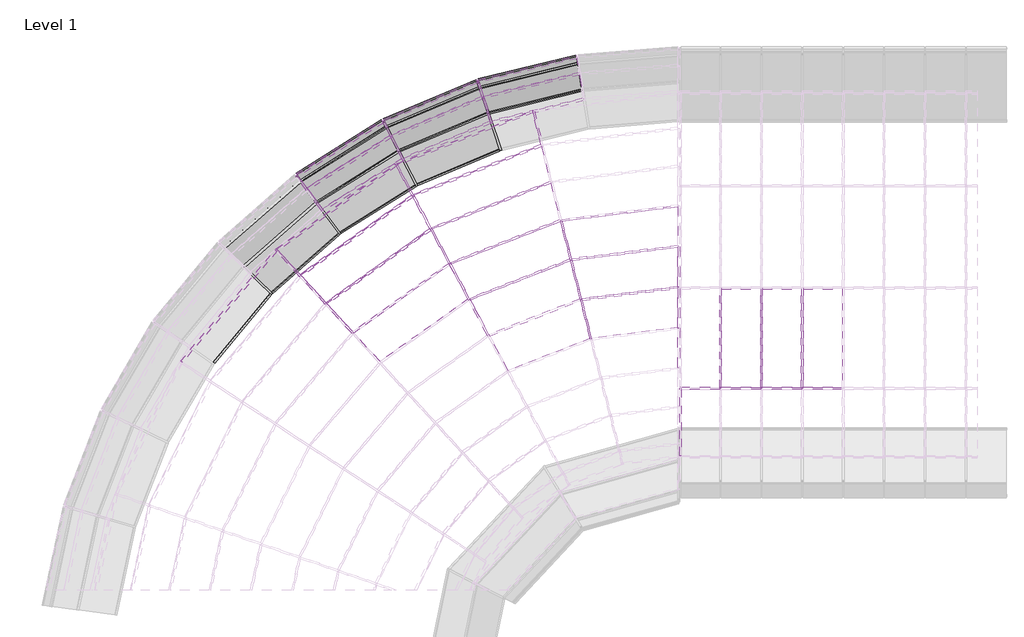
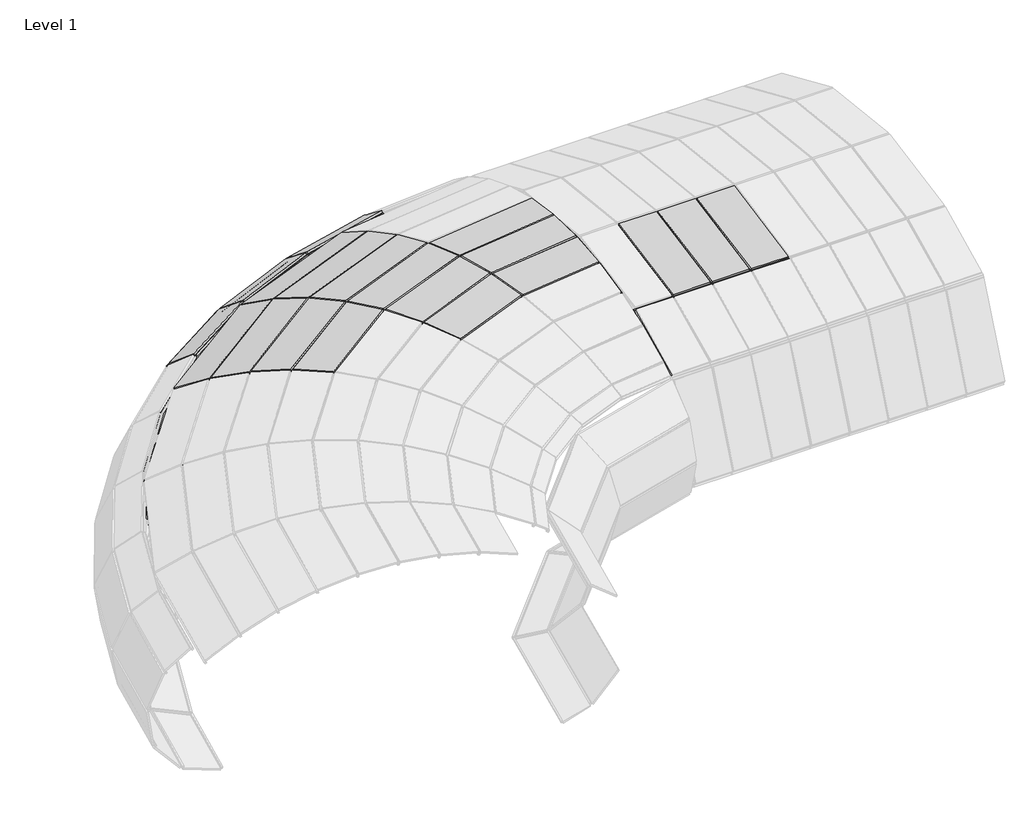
# One storey, part 16 of 23: 70 members, 32 plates.
"""IFC4 building model written with IfcOpenShell, lengths in millimetres."""

from ifc_helpers import new_model, si_unit, origin, place, context, project, spatial, transform, mapped, element, save
from components import member_d6b8231b, member_8c9da58c, member_391bee44, member_01ebdf2a, member_0cd36c09, member_e4cc2466, member_7149052c, member_6c4aaba8, member_0ea93e7c, member_bc92414a, member_01d9c279, member_f1f58849, member_12c77cbe, member_302b4213, member_fc38b671, member_bfbbd4af, member_af15374c, member_9c203333, member_86c07ba8, member_0e8a41c0, member_f532ae18, member_ff5bcfe9, member_5080b2ef, member_3e1f1dd8, member_309acb9e, member_a1b02127, system_panel_glazed_a6d149b5, system_panel_glazed_185472ef, system_panel_glazed_d90a1b68, system_panel_glazed_31312e4f, system_panel_glazed_7d733e69, system_panel_glazed_42fef723, system_panel_glazed_1f33159c, system_panel_glazed_529724de, system_panel_glazed_b4bd1deb, system_panel_glazed_020edd5b, system_panel_glazed_973a940c, system_panel_glazed_7e9fb579, system_panel_glazed_aab04364, system_panel_glazed_9094d4f4, system_panel_glazed_e96a6bf3

model = new_model("IFC4")

# Units and contexts
model_context = context("Model", 3, world=origin())
ifc_project = project(units=[si_unit("LENGTHUNIT", "METRE", prefix="MILLI")], contexts=[model_context])

# Site, building, storey
site = spatial("IfcSite", under=ifc_project)
building = spatial("IfcBuilding", under=site)
storey = spatial("IfcBuildingStorey", under=building, Name="Level 1", Elevation=0.0)

# Members
placement = place(None, origin())
member_shape = member_d6b8231b(model_context)
element("IfcMember", 1, ObjectType="Rectangular Mullion : 1\" Square", at=placement, inside=storey, context=model_context, shape_type="MappedRepresentation", body=[
    mapped(member_shape, transform((-12576.8857253, 6681.4197391, 0.0), x_axis=(-0.9491072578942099, -0.3149530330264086, 0.0), y_axis=(-0.08828060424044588, 0.26603256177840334, -0.959913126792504), z_axis=(0.3023275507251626, -0.9110605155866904, -0.2802976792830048))),
])
element("IfcMember", 2, ObjectType="Rectangular Mullion : 1\" Square", at=placement, inside=storey, context=model_context, shape_type="MappedRepresentation", body=[
    mapped(member_shape, transform((-13823.3519715, 6153.674298, 0.0), x_axis=(-0.8867127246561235, -0.46232082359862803, 0.0), y_axis=(-0.129587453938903, 0.2485435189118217, -0.959913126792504), z_axis=(0.4437878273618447, -0.85116718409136, -0.2802976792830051))),
])
element("IfcMember", 3, ObjectType="Rectangular Mullion : 1\" Square", at=placement, inside=storey, context=model_context, shape_type="MappedRepresentation", body=[
    mapped(member_shape, transform((-15986.4866134, 4540.3860924, 0.0), x_axis=(-0.6959761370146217, -0.7180649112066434, 0.0), y_axis=(-0.20127192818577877, 0.19508049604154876, -0.9599131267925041), z_axis=(0.6892799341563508, -0.6680766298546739, -0.2802976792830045))),
])
element("IfcMember", 4, ObjectType="Rectangular Mullion : 1\" Square", at=placement, inside=storey, context=model_context, shape_type="MappedRepresentation", body=[
    mapped(member_shape, transform((-14969.6714797, 5433.8514456, 0.0), x_axis=(-0.8016091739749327, -0.5978484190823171, 0.0), y_axis=(-0.16757552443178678, 0.2246891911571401, -0.9599131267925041), z_axis=(0.5738825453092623, -0.769475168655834, -0.28029767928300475))),
])
member_2_shape = member_8c9da58c(model_context)
element("IfcMember", 5, ObjectType="Rectangular Mullion : 1\" Square", at=placement, inside=storey, context=model_context, shape_type="MappedRepresentation", body=[
    mapped(member_2_shape, transform((-12761.1846002, 7236.8022294, 170.8694653), x_axis=(-0.9491072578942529, -0.31495303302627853, 0.0), y_axis=(-0.23709811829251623, 0.7144923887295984, -0.658243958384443), z_axis=(0.20731593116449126, -0.6247441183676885, -0.7528046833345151))),
])
element("IfcMember", 6, ObjectType="Rectangular Mullion : 1\" Square", at=placement, inside=storey, context=model_context, shape_type="MappedRepresentation", body=[
    mapped(member_2_shape, transform((-12887.5643919, 7617.6462439, 629.7792003), x_axis=(-0.9491072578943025, -0.3149530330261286, 0.0), y_axis=(-0.3114034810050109, 0.9384107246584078, -0.14971033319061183), z_axis=(0.047151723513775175, -0.14209116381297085, -0.9887299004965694))),
])
element("IfcMember", 7, ObjectType="Rectangular Mullion : 1\" Square", at=placement, inside=storey, context=model_context, shape_type="MappedRepresentation", body=[
    mapped(member_2_shape, transform((-14093.8850311, 6672.5458134, 170.8694653), x_axis=(-0.8867127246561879, -0.4623208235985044, 0.0), y_axis=(-0.3480372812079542, 0.6675214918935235, -0.6582439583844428), z_axis=(0.30431988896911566, -0.5836732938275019, -0.7528046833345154))),
])
element("IfcMember", 8, ObjectType="Rectangular Mullion : 1\" Square", at=placement, inside=storey, context=model_context, shape_type="MappedRepresentation", body=[
    mapped(member_2_shape, transform((-14279.3984354, 7028.3530534, 629.7792003), x_axis=(-0.8867127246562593, -0.4623208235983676, 0.0), y_axis=(-0.45711042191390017, 0.8767193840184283, -0.14971033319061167), z_axis=(0.06921420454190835, -0.1327500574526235, -0.9887299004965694))),
])
element("IfcMember", 9, ObjectType="Rectangular Mullion : 1\" Square", at=placement, inside=storey, context=model_context, shape_type="MappedRepresentation", body=[
    mapped(member_2_shape, transform((-15319.5102793, 5902.9235085, 170.8694653), x_axis=(-0.8016091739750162, -0.5978484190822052, 0.0), y_axis=(-0.450063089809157, 0.6034551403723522, -0.6582439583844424), z_axis=(0.3935301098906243, -0.5276543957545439, -0.7528046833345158))),
])
element("IfcMember", 10, ObjectType="Rectangular Mullion : 1\" Square", at=placement, inside=storey, context=model_context, shape_type="MappedRepresentation", body=[
    mapped(member_2_shape, transform((-15559.4062343, 6224.5816281, 629.7792003), x_axis=(-0.8016091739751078, -0.5978484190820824, 0.0), y_axis=(-0.5911106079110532, 0.7925749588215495, -0.149710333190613), z_axis=(0.08950408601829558, -0.12000917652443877, -0.9887299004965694))),
])
member_3_shape = member_391bee44(model_context)
element("IfcMember", 11, ObjectType="Rectangular Mullion : 1\" Square", at=placement, inside=storey, context=model_context, shape_type="MappedRepresentation", body=[
    mapped(member_3_shape, transform((-12916.3080825, 7704.2650174, 1232.5089476), x_axis=(-0.9491072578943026, -0.314953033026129, 0.0), y_axis=(-0.2878449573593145, 0.867417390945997, 0.40587233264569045), z_axis=(-0.1278307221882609, 0.38521637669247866, -0.9139297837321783))),
])
element("IfcMember", 12, ObjectType="Rectangular Mullion : 1\" Square", at=placement, inside=storey, context=model_context, shape_type="MappedRepresentation", body=[
    mapped(member_3_shape, transform((-14321.5914145, 7109.2774884, 1232.5089476), x_axis=(-0.8867127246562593, -0.46232082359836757, 0.0), y_axis=(-0.42252877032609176, 0.8103931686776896, 0.4058723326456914), z_axis=(-0.18764323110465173, 0.35989216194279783, -0.9139297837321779))),
])
element("IfcMember", 13, ObjectType="Rectangular Mullion : 1\" Square", at=placement, inside=storey, context=model_context, shape_type="MappedRepresentation", body=[
    mapped(member_3_shape, transform((-15613.9679251, 6297.7392221, 1232.5089476), x_axis=(-0.8016091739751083, -0.5978484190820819, 0.0), y_axis=(-0.5463914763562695, 0.7326144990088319, 0.4058723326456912), z_axis=(-0.24265013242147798, 0.32535098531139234, -0.9139297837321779))),
])
member_4_shape = member_01ebdf2a(model_context)
element("IfcMember", 14, ObjectType="Rectangular Mullion : 1\" Square", at=placement, inside=storey, context=model_context, shape_type="MappedRepresentation", body=[
    mapped(member_4_shape, transform((-12838.3824743, 7469.4371141, 1789.6405438), x_axis=(-0.9491072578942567, -0.3149530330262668, 0.0), y_axis=(-0.18766792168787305, 0.565535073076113, 0.8030883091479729), z_axis=(-0.25293509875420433, 0.7622169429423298, -0.5958600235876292))),
])
element("IfcMember", 15, ObjectType="Rectangular Mullion : 1\" Square", at=placement, inside=storey, context=model_context, shape_type="MappedRepresentation", body=[
    mapped(member_4_shape, transform((-14207.2041008, 6889.8872265, 1789.6405438), x_axis=(-0.8867127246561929, -0.46232082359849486, 0.0), y_axis=(-0.27547849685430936, 0.5283566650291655, 0.8030883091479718), z_axis=(-0.3712844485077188, 0.7121086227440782, -0.5958600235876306))),
])
element("IfcMember", 16, ObjectType="Rectangular Mullion : 1\" Square", at=placement, inside=storey, context=model_context, shape_type="MappedRepresentation", body=[
    mapped(member_4_shape, transform((-15466.0484044, 6099.4052615, 1789.6405438), x_axis=(-0.8016091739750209, -0.5978484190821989, 0.0), y_axis=(-0.35623397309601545, 0.4776468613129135, 0.8030883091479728), z_axis=(-0.4801250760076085, 0.6437629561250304, -0.5958600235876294))),
])
member_5_shape = member_0cd36c09(model_context)
element("IfcMember", 17, ObjectType="Rectangular Mullion : 1\" Square", at=placement, inside=storey, context=model_context, shape_type="MappedRepresentation", body=[
    mapped(member_5_shape, transform((-11677.211635, 5634.5342332, 2763.3769688), x_axis=(-0.9695168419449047, -0.24502467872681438, 0.0), y_axis=(-0.03488908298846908, 0.13804957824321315, 0.9898106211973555), z_axis=(-0.24252802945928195, 0.9596380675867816, -0.14239007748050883))),
])
element("IfcMember", 18, ObjectType="Rectangular Mullion : 1\" Square", at=placement, inside=storey, context=model_context, shape_type="MappedRepresentation", body=[
    mapped(member_5_shape, transform((-11529.3665483, 5049.5388672, 2850.17796), x_axis=(-0.9695168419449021, -0.24502467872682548, 0.0), y_axis=(-0.005765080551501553, 0.02281134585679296, 0.9997231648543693), z_axis=(-0.24495684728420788, 0.9692484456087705, -0.023528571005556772))),
])
element("IfcMember", 19, ObjectType="Rectangular Mullion : 1\" Square", at=placement, inside=storey, context=model_context, shape_type="MappedRepresentation", body=[
    mapped(member_5_shape, transform((-13882.4385737, 6005.341088, 2378.3537392), x_axis=(-0.879925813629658, -0.4751111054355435, 0.0), y_axis=(-0.17691896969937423, 0.32766139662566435, 0.9280828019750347), z_axis=(-0.4409424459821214, 0.8166440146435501, -0.37237388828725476))),
])
element("IfcMember", 20, ObjectType="Rectangular Mullion : 1\" Square", at=placement, inside=storey, context=model_context, shape_type="MappedRepresentation", body=[
    mapped(member_5_shape, transform((-13613.6400587, 5507.5148967, 2605.3528615), x_axis=(-0.8799258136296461, -0.4751111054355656, 0.0), y_axis=(-0.12316110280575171, 0.22809955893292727, 0.9658167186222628), z_axis=(-0.4588702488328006, 0.8498470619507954, -0.25922589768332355))),
])
element("IfcMember", 21, ObjectType="Rectangular Mullion : 1\" Square", at=placement, inside=storey, context=model_context, shape_type="MappedRepresentation", body=[
    mapped(member_5_shape, transform((-13333.912755, 4989.4481277, 2763.3769688), x_axis=(-0.8799258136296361, -0.47511110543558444, 0.0), y_axis=(-0.0676511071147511, 0.12529270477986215, 0.9898106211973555), z_axis=(-0.4702700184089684, 0.870959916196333, -0.14239007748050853))),
])
element("IfcMember", 22, ObjectType="Rectangular Mullion : 1\" Square", at=placement, inside=storey, context=model_context, shape_type="MappedRepresentation", body=[
    mapped(member_5_shape, transform((-13047.2361517, 4458.5109628, 2850.17796), x_axis=(-0.8799258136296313, -0.4751111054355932, 0.0), y_axis=(-0.01117868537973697, 0.02070339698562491, 0.9997231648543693), z_axis=(-0.47497957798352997, 0.8796822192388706, -0.023528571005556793))),
])
element("IfcMember", 23, ObjectType="Rectangular Mullion : 1\" Square", at=placement, inside=storey, context=model_context, shape_type="MappedRepresentation", body=[
    mapped(member_5_shape, transform((-15562.7742428, 4808.6165963, 2378.3537392), x_axis=(-0.7366889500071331, -0.6762317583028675, 0.0), y_axis=(-0.25181104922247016, 0.27432372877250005, 0.9280828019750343), z_axis=(-0.627599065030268, 0.6837083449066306, -0.3723738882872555))),
])
element("IfcMember", 24, ObjectType="Rectangular Mullion : 1\" Square", at=placement, inside=storey, context=model_context, shape_type="MappedRepresentation", body=[
    mapped(member_5_shape, transform((-15180.1898528, 4391.8279892, 2605.3528615), x_axis=(-0.7366889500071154, -0.6762317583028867, 0.0), y_axis=(-0.17529678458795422, 0.19096885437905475, 0.9658167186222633), z_axis=(-0.6531159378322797, 0.7115065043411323, -0.2592258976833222))),
])
element("IfcMember", 25, ObjectType="Rectangular Mullion : 1\" Square", at=placement, inside=storey, context=model_context, shape_type="MappedRepresentation", body=[
    mapped(member_5_shape, transform((-11380.0408541, 4458.6850148, 2864.5209769), x_axis=(-0.9695168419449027, -0.24502467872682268, 0.0), y_axis=(0.023440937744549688, -0.09275140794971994, 0.9954133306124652), z_axis=(-0.24390083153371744, 0.9650699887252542, 0.09566766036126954))),
])
member_6_shape = member_e4cc2466(model_context)
element("IfcMember", 26, ObjectType="Rectangular Mullion : 1\" Square", at=placement, inside=storey, context=model_context, shape_type="MappedRepresentation", body=[
    mapped(member_6_shape, transform((-15924.3607807, 5202.5300788, 2085.6089632), x_axis=(-0.7366889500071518, -0.6762317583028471, 0.0), y_axis=(-0.3247429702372, 0.3537759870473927, 0.8771456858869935), z_axis=(-0.5931537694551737, 0.6461835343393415, -0.4802243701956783))),
])
element("IfcMember", 27, ObjectType="Rectangular Mullion : 1\" Square", at=placement, inside=storey, context=model_context, shape_type="MappedRepresentation", body=[
    mapped(member_6_shape, transform((-14136.4842875, 6475.8444688, 2085.6089632), x_axis=(-0.8799258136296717, -0.47511110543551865, 0.0), y_axis=(-0.22815993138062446, 0.4225618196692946, 0.8771456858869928), z_axis=(-0.4167416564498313, 0.771823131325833, -0.48022437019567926))),
])
element("IfcMember", 28, ObjectType="Rectangular Mullion : 1\" Square", at=placement, inside=storey, context=model_context, shape_type="MappedRepresentation", body=[
    mapped(member_6_shape, transform((-12091.1144667, 7272.2703517, 2085.6089632), x_axis=(-0.9695168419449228, -0.24502467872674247, 0.0), y_axis=(-0.11766682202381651, 0.46558561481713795, 0.877145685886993), z_axis=(-0.21492233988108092, 0.8504075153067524, -0.48022437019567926))),
])
member_7_shape = member_7149052c(model_context)
element("IfcMember", 29, ObjectType="Rectangular Mullion : 1\" Square", at=placement, inside=storey, context=model_context, shape_type="MappedRepresentation", body=[
    mapped(member_7_shape, transform((-9912.9499814, 4641.2036214, 2864.5209769), x_axis=(0.999995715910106, 6.887147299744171e-05, 0.0029263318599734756), y_axis=(-0.002927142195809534, 0.02352847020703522, 0.9997188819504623), z_axis=(0.0, -0.9997231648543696, 0.023528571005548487))),
])
member_8_shape = member_6c4aaba8(model_context)
element("IfcMember", 30, ObjectType="Rectangular Mullion : 1\" Square", at=placement, inside=storey, context=model_context, shape_type="MappedRepresentation", body=[
    mapped(member_8_shape, transform((-13870.6040784, 6009.9492025, 2378.3537392), x_axis=(0.328579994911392, -0.843854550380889, 0.424198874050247), y_axis=(-0.15391787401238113, 0.3952897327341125, 0.9055690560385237), z_axis=(-0.9318500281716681, -0.36284366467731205, 0.0))),
])
element("IfcMember", 31, ObjectType="Rectangular Mullion : 1\" Square", at=placement, inside=storey, context=model_context, shape_type="MappedRepresentation", body=[
    mapped(member_8_shape, transform((-15552.429602, 4815.9839844, 2378.3537392), x_axis=(0.5253290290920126, -0.7376209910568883, 0.424198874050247), y_axis=(-0.24608171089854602, 0.34552637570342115, 0.9055690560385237), z_axis=(-0.8145386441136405, -0.5801092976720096, 0.0))),
])
member_9_shape = member_0ea93e7c(model_context)
element("IfcMember", 32, ObjectType="Rectangular Mullion : 1\" Square", at=placement, inside=storey, context=model_context, shape_type="MappedRepresentation", body=[
    mapped(member_9_shape, transform((-13322.0782596, 4994.0562422, 2763.3769688), x_axis=(0.3555541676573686, -0.9131292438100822, 0.19943976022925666), y_axis=(-0.0723654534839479, 0.18584794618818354, 0.9799100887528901), z_axis=(-0.9318500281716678, -0.36284366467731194, 0.0))),
])
member_10_shape = member_bc92414a(model_context)
element("IfcMember", 33, ObjectType="Rectangular Mullion : 1\" Square", at=placement, inside=storey, context=model_context, shape_type="MappedRepresentation", body=[
    mapped(member_10_shape, transform((-11516.7637039, 5051.1067685, 2850.17796), x_axis=(0.12303904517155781, -0.9889921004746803, 0.08219500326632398), y_axis=(-0.010147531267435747, 0.08156620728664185, 0.9966162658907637), z_axis=(-0.9923499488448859, -0.12345679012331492, 0.0))),
])
member_11_shape = member_01d9c279(model_context)
element("IfcMember", 34, ObjectType="Rectangular Mullion : 1\" Square", at=placement, inside=storey, context=model_context, shape_type="MappedRepresentation", body=[
    mapped(member_11_shape, transform((-13035.4016564, 4463.1190773, 2850.17796), x_axis=(0.3616158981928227, -0.9286968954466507, 0.08219500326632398), y_axis=(-0.029823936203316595, 0.07659341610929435, 0.9966162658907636), z_axis=(-0.9318500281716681, -0.36284366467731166, 0.0))),
])
member_12_shape = member_f1f58849(model_context)
element("IfcMember", 35, ObjectType="Rectangular Mullion : 1\" Square", at=placement, inside=storey, context=model_context, shape_type="MappedRepresentation", body=[
    mapped(member_12_shape, transform((-11367.4380098, 4460.252916, 2864.5209769), x_axis=(0.12337601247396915, -0.991700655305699, -0.03616863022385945), y_axis=(0.004465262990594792, -0.03589193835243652, 0.9993457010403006), z_axis=(-0.992349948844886, -0.12345679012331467, 0.0))),
])
member_13_shape = member_12c77cbe(model_context)
element("IfcMember", 36, ObjectType="Rectangular Mullion : 1\" Square", at=placement, inside=storey, context=model_context, shape_type="MappedRepresentation", body=[
    mapped(member_13_shape, transform((-13601.8055633, 5512.1230112, 2605.3528615), x_axis=(0.34449616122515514, -0.8847302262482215, 0.31396627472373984), y_axis=(-0.11392067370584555, 0.2925694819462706, 0.9494341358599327), z_axis=(-0.9318500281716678, -0.3628436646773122, 0.0))),
])
element("IfcMember", 37, ObjectType="Rectangular Mullion : 1\" Square", at=placement, inside=storey, context=model_context, shape_type="MappedRepresentation", body=[
    mapped(member_13_shape, transform((-15169.845212, 4399.1953773, 2605.3528615), x_axis=(0.5507755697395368, -0.7733507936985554, 0.3139662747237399), y_axis=(-0.18213475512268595, 0.25573766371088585, 0.9494341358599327), z_axis=(-0.8145386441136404, -0.5801092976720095, 0.0))),
])
member_14_shape = member_302b4213(model_context)
element("IfcMember", 38, ObjectType="Rectangular Mullion : 1\" Square", at=placement, inside=storey, context=model_context, shape_type="MappedRepresentation", body=[
    mapped(member_14_shape, transform((-11664.6087907, 5636.1021345, 2763.3769688), x_axis=(0.12097655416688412, -0.9724137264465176, 0.19943976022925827), y_axis=(-0.024622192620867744, 0.19791403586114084, 0.9799100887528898), z_axis=(-0.992349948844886, -0.12345679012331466, 0.0))),
])
member_15_shape = member_fc38b671(model_context)
element("IfcMember", 39, ObjectType="Rectangular Mullion : 1\" Square", at=placement, inside=storey, context=model_context, shape_type="MappedRepresentation", body=[
    mapped(member_15_shape, transform((-9912.9499814, 4034.3996551, 2806.2019711), x_axis=(0.9999291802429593, 0.001138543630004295, -0.011846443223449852), y_axis=(0.011901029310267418, -0.09566088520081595, 0.9953428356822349), z_axis=(0.0, -0.9954133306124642, -0.09566766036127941))),
])
member_16_shape = member_bfbbd4af(model_context)
element("IfcMember", 40, ObjectType="Rectangular Mullion : 1\" Square", at=placement, inside=storey, context=model_context, shape_type="MappedRepresentation", body=[
    mapped(member_16_shape, transform((-9912.9499814, 3438.8555488, 2676.0506073), x_axis=(0.9996474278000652, 0.005668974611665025, -0.025939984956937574), y_axis=(0.02655221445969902, -0.21342761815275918, 0.9765979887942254), z_axis=(0.0, -0.9769424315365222, -0.2135028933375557))),
])
member_17_shape = member_af15374c(model_context)
element("IfcMember", 41, ObjectType="Rectangular Mullion : 1\" Square", at=placement, inside=storey, context=model_context, shape_type="MappedRepresentation", body=[
    mapped(member_17_shape, transform((-12102.9489621, 7267.6622372, 2085.6089632), x_axis=(-0.3177002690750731, 0.8159133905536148, -0.48306508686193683), y_axis=(-0.17527710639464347, 0.4501442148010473, 0.8755844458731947), z_axis=(0.9318500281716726, 0.3628436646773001, 0.0))),
])
element("IfcMember", 42, ObjectType="Rectangular Mullion : 1\" Square", at=placement, inside=storey, context=model_context, shape_type="MappedRepresentation", body=[
    mapped(member_17_shape, transform((-14146.8289283, 6468.4770808, 2085.6089632), x_axis=(-0.507934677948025, 0.7131973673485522, -0.48306508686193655), y_axis=(-0.280230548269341, 0.39347518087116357, 0.8755844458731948), z_axis=(0.8145386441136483, 0.5801092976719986, 0.0))),
])
element("IfcMember", 43, ObjectType="Rectangular Mullion : 1\" Square", at=placement, inside=storey, context=model_context, shape_type="MappedRepresentation", body=[
    mapped(member_17_shape, transform((-15932.5848922, 5192.8525797, 2085.6089632), x_axis=(-0.6672021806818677, 0.5670003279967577, -0.48306508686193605), y_axis=(-0.36809936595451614, 0.31281741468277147, 0.8755844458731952), z_axis=(0.6475678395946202, 0.7620078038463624, 0.0))),
])
member_18_shape = member_9c203333(model_context)
element("IfcMember", 44, ObjectType="Rectangular Mullion : 1\" Square", at=placement, inside=storey, context=model_context, shape_type="MappedRepresentation", body=[
    mapped(member_18_shape, transform((-12588.5806813, 6676.4681732, 0.0), x_axis=(0.3741630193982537, -0.8837244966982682, -0.2811281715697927), y_axis=(-0.10960824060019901, 0.2588804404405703, -0.959670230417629), z_axis=(0.9208626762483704, 0.3898870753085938, 0.0))),
])
element("IfcMember", 45, ObjectType="Rectangular Mullion : 1\" Square", at=placement, inside=storey, context=model_context, shape_type="MappedRepresentation", body=[
    mapped(member_18_shape, transform((-13834.1073019, 6146.9205679, 0.0), x_axis=(0.5103428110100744, -0.8127220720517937, -0.2811281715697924), y_axis=(-0.14950108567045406, 0.23808081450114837, -0.9596702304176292), z_axis=(0.8468764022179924, 0.5317897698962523, 0.0))),
])
element("IfcMember", 46, ObjectType="Rectangular Mullion : 1\" Square", at=placement, inside=storey, context=model_context, shape_type="MappedRepresentation", body=[
    mapped(member_18_shape, transform((-14979.2117366, 5425.4685167, 0.0), x_axis=(0.6334525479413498, -0.7209055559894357, -0.2811281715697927), y_axis=(-0.18556515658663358, 0.21118385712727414, -0.959670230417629), z_axis=(0.7512013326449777, 0.6600731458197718, 0.0))),
])
element("IfcMember", 47, ObjectType="Rectangular Mullion : 1\" Square", at=placement, inside=storey, context=model_context, shape_type="MappedRepresentation", body=[
    mapped(member_18_shape, transform((-15994.5674676, 4530.5886543, 0.0), x_axis=(0.7403393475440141, -0.6106264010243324, -0.2811281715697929), y_axis=(-0.21687684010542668, 0.17887840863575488, -0.9596702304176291), z_axis=(0.6362877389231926, 0.7714518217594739, 0.0))),
])
member_19_shape = member_86c07ba8(model_context)
element("IfcMember", 48, ObjectType="Rectangular Mullion : 1\" Square", at=placement, inside=storey, context=model_context, shape_type="MappedRepresentation", body=[
    mapped(member_19_shape, transform((-12748.8495304, 7239.8248197, 170.8694653), x_axis=(-0.20088097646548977, 0.8197872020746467, 0.5362795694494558), y_axis=(-0.12763412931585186, 0.520869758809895, -0.8440404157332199), z_axis=(-0.9712653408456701, -0.23799923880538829, 0.0))),
])
element("IfcMember", 49, ObjectType="Rectangular Mullion : 1\" Square", at=placement, inside=storey, context=model_context, shape_type="MappedRepresentation", body=[
    mapped(member_19_shape, transform((-14082.1900751, 6677.4973793, 170.8694653), x_axis=(-0.3290804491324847, 0.7772453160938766, 0.5362795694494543), y_axis=(-0.20908847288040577, 0.49383983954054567, -0.8440404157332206), z_axis=(-0.9208626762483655, -0.3898870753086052, 0.0))),
])
element("IfcMember", 50, ObjectType="Rectangular Mullion : 1\" Square", at=placement, inside=storey, context=model_context, shape_type="MappedRepresentation", body=[
    mapped(member_19_shape, transform((-15308.754949, 5909.6772385, 170.8694653), x_axis=(-0.44885205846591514, 0.7147979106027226, 0.536279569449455), y_axis=(-0.28518798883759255, 0.4541625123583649, -0.8440404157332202), z_axis=(-0.8468764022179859, -0.5317897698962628, 0.0))),
])
member_20_shape = member_0e8a41c0(model_context)
element("IfcMember", 51, ObjectType="Rectangular Mullion : 1\" Square", at=placement, inside=storey, context=model_context, shape_type="MappedRepresentation", body=[
    mapped(member_20_shape, transform((-12875.2293221, 7620.6688342, 629.7792003), x_axis=(-0.10050189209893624, 0.4101441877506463, 0.9064662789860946), y_axis=(-0.21573828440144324, 0.8804192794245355, -0.42227820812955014), z_axis=(-0.9712653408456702, -0.23799923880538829, 0.0))),
])
element("IfcMember", 52, ObjectType="Rectangular Mullion : 1\" Square", at=placement, inside=storey, context=model_context, shape_type="MappedRepresentation", body=[
    mapped(member_20_shape, transform((-14267.7034794, 7033.3046192, 629.7792003), x_axis=(-0.16464081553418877, 0.38886024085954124, 0.9064662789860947), y_axis=(-0.35341948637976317, 0.8347309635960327, -0.42227820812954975), z_axis=(-0.9208626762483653, -0.3898870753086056, 0.0))),
])
element("IfcMember", 53, ObjectType="Rectangular Mullion : 1\" Square", at=placement, inside=storey, context=model_context, shape_type="MappedRepresentation", body=[
    mapped(member_20_shape, transform((-15548.650904, 6231.3353582, 629.7792003), x_axis=(-0.22456323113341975, 0.3576174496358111, 0.9064662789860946), y_axis=(-0.4820494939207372, 0.7676649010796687, -0.4222782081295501), z_axis=(-0.8468764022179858, -0.5317897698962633, 0.0))),
])
member_21_shape = member_f532ae18(model_context)
element("IfcMember", 54, ObjectType="Rectangular Mullion : 1\" Square", at=placement, inside=storey, context=model_context, shape_type="MappedRepresentation", body=[
    mapped(member_21_shape, transform((-12903.9730127, 7707.2876077, 1232.5089476), x_axis=(0.031882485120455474, -0.13011114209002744, 0.9909866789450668), y_axis=(-0.2358540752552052, 0.962511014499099, 0.13396044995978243), z_axis=(-0.9712653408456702, -0.23799923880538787, 0.0))),
])
element("IfcMember", 55, ObjectType="Rectangular Mullion : 1\" Square", at=placement, inside=storey, context=model_context, shape_type="MappedRepresentation", body=[
    mapped(member_21_shape, transform((-14309.8964585, 7114.2290542, 1232.5089476), x_axis=(0.052229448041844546, -0.12335917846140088, 0.9909866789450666), y_axis=(-0.3863728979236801, 0.9125626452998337, 0.13396044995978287), z_axis=(-0.9208626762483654, -0.38988707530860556, 0.0))),
])
element("IfcMember", 56, ObjectType="Rectangular Mullion : 1\" Square", at=placement, inside=storey, context=model_context, shape_type="MappedRepresentation", body=[
    mapped(member_21_shape, transform((-15603.2125948, 6304.4929522, 1232.5089476), x_axis=(0.07123879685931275, -0.1134479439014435, 0.9909866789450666), y_axis=(-0.5269965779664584, 0.8392432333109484, 0.1339604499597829), z_axis=(-0.846876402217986, -0.5317897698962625, 0.0))),
])
member_22_shape = member_ff5bcfe9(model_context)
element("IfcMember", 57, ObjectType="Rectangular Mullion : 1\" Square", at=placement, inside=storey, context=model_context, shape_type="MappedRepresentation", body=[
    mapped(member_22_shape, transform((-12826.0474045, 7472.4597045, 1789.6405438), x_axis=(0.15408048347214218, -0.6287962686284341, 0.7621512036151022), y_axis=(-0.1813914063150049, 0.7402510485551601, 0.6473990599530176), z_axis=(-0.9712653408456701, -0.23799923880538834, 0.0))),
])
element("IfcMember", 58, ObjectType="Rectangular Mullion : 1\" Square", at=placement, inside=storey, context=model_context, shape_type="MappedRepresentation", body=[
    mapped(member_22_shape, transform((-14195.5091448, 6894.8387923, 1789.6405438), x_axis=(0.2524125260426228, -0.5961656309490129, 0.7621512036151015), y_axis=(-0.29715290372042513, 0.7018365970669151, 0.6473990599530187), z_axis=(-0.9208626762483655, -0.3898870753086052, 0.0))),
])
element("IfcMember", 59, ObjectType="Rectangular Mullion : 1\" Square", at=placement, inside=storey, context=model_context, shape_type="MappedRepresentation", body=[
    mapped(member_22_shape, transform((-15455.2930741, 6106.1589916, 1789.6405438), x_axis=(0.34428019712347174, -0.548266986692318, 0.7621512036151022), y_axis=(-0.4053042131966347, 0.6454478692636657, 0.6473990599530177), z_axis=(-0.8468764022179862, -0.5317897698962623, 0.0))),
])
member_23_shape = member_5080b2ef(model_context)
element("IfcMember", 60, ObjectType="Rectangular Mullion : 1\" Square", at=placement, inside=storey, context=model_context, shape_type="MappedRepresentation", body=[
    mapped(member_23_shape, transform((-12700.4125264, 7093.8604783, 2085.6089632), x_axis=(0.19091613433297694, -0.7791210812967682, 0.5970941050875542), y_axis=(-0.14210794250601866, 0.5799368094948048, 0.8021711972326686), z_axis=(-0.9712653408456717, -0.23799923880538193, 0.0))),
])
element("IfcMember", 61, ObjectType="Rectangular Mullion : 1\" Square", at=placement, inside=storey, context=model_context, shape_type="MappedRepresentation", body=[
    mapped(member_23_shape, transform((-14011.0892022, 6541.1287679, 2085.6089632), x_axis=(0.3127561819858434, -0.738689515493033, 0.5970941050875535), y_axis=(-0.23279927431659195, 0.5498416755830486, 0.802171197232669), z_axis=(-0.9208626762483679, -0.3898870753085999, 0.0))),
])
element("IfcMember", 62, ObjectType="Rectangular Mullion : 1\" Square", at=placement, inside=storey, context=model_context, shape_type="MappedRepresentation", body=[
    mapped(member_23_shape, transform((-15216.8111249, 5786.396804, 2085.6089632), x_axis=(0.42658643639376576, -0.6793398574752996, 0.5970941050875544), y_axis=(-0.3175285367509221, 0.5056649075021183, 0.8021711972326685), z_axis=(-0.8468764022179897, -0.531789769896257, 0.0))),
])
member_24_shape = member_3e1f1dd8(model_context)
element("IfcMember", 63, ObjectType="Rectangular Mullion : 1\" Square", at=placement, inside=storey, context=model_context, shape_type="MappedRepresentation", body=[
    mapped(member_24_shape, transform((-9303.3499814, 3134.3722562, 2579.8319299), x_axis=(0.0, -0.9436447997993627, -0.33095995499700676), y_axis=(0.0, -0.33095995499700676, 0.9436447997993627), z_axis=(-1.0, 0.0, 0.0))),
])
element("IfcMember", 64, ObjectType="Rectangular Mullion : 1\" Square", at=placement, inside=storey, context=model_context, shape_type="MappedRepresentation", body=[
    mapped(member_24_shape, transform((-8693.7499814, 3134.3722562, 2579.8319299), x_axis=(0.0, -0.9436447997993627, -0.33095995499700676), y_axis=(0.0, -0.33095995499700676, 0.9436447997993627), z_axis=(-1.0, 0.0, 0.0))),
])
element("IfcMember", 65, ObjectType="Rectangular Mullion : 1\" Square", at=placement, inside=storey, context=model_context, shape_type="MappedRepresentation", body=[
    mapped(member_24_shape, transform((-8084.1499814, 3134.3722562, 2579.8319299), x_axis=(0.0, -0.9436447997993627, -0.33095995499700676), y_axis=(0.0, -0.33095995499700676, 0.9436447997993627), z_axis=(-1.0, 0.0, 0.0))),
])
element("IfcMember", 66, ObjectType="Rectangular Mullion : 1\" Square", at=placement, inside=storey, context=model_context, shape_type="MappedRepresentation", body=[
    mapped(member_24_shape, transform((-9912.9499814, 3134.3722562, 2579.8319299), x_axis=(0.0, -0.9436447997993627, -0.33095995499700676), y_axis=(0.0, -0.33095995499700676, 0.9436447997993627), z_axis=(-1.0, 0.0, 0.0))),
])
member_25_shape = member_309acb9e(model_context)
element("IfcMember", 67, ObjectType="Rectangular Mullion : 1\" Square", at=placement, inside=storey, context=model_context, shape_type="MappedRepresentation", body=[
    mapped(member_25_shape, transform((-8693.7499814, 3146.8492645, 2582.2013738), x_axis=(1.0, 0.0, 0.0), y_axis=(0.0, -0.18657038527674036, 0.9824415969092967), z_axis=(0.0, -0.9824415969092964, -0.18657038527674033))),
])
element("IfcMember", 68, ObjectType="Rectangular Mullion : 1\" Square", at=placement, inside=storey, context=model_context, shape_type="MappedRepresentation", body=[
    mapped(member_25_shape, transform((-9303.3499814, 3146.8492645, 2582.2013738), x_axis=(1.0, 0.0, 0.0), y_axis=(0.0, -0.18657038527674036, 0.9824415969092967), z_axis=(0.0, -0.9824415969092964, -0.18657038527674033))),
])
element("IfcMember", 69, ObjectType="Rectangular Mullion : 1\" Square", at=placement, inside=storey, context=model_context, shape_type="MappedRepresentation", body=[
    mapped(member_25_shape, transform((-8084.1499814, 3146.8492645, 2582.2013738), x_axis=(1.0, 0.0, 0.0), y_axis=(0.0, -0.18657038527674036, 0.9824415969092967), z_axis=(0.0, -0.9824415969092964, -0.18657038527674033))),
])
member_26_shape = member_a1b02127(model_context)
element("IfcMember", 70, ObjectType="Rectangular Mullion : 1\" Square", at=placement, inside=storey, context=model_context, shape_type="MappedRepresentation", body=[
    mapped(member_26_shape, transform((-9912.9499814, 3122.930794, 2574.3198574), x_axis=(-1.0, 0.0, 0.0), y_axis=(0.0, -0.4340214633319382, 0.9009025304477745), z_axis=(0.0, 0.9009025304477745, 0.4340214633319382))),
])

# Plates
system_panel_glazed_shape = system_panel_glazed_a6d149b5(model_context)
element("IfcPlate", 71, ObjectType="System Panel : Glazed", at=placement, inside=storey, context=model_context, shape_type="MappedRepresentation", body=[
    mapped(system_panel_glazed_shape, transform((-13105.7297903, 6853.3332101, 2097.8788164), x_axis=(-0.9318500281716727, -0.36284366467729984, 0.0), y_axis=(0.17527710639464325, -0.4501442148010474, -0.8755844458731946), z_axis=(0.31770026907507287, -0.8159133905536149, 0.48306508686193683))),
])
element("IfcPlate", 72, ObjectType="System Panel : Glazed", at=placement, inside=storey, context=model_context, shape_type="MappedRepresentation", body=[
    mapped(system_panel_glazed_shape, transform((-15017.5209933, 5821.0720607, 2097.8788164), x_axis=(-0.814538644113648, -0.5801092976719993, 0.0), y_axis=(0.2802305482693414, -0.39347518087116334, -0.875584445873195), z_axis=(0.5079346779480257, -0.7131973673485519, 0.4830650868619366))),
])
system_panel_glazed_2_shape = system_panel_glazed_185472ef(model_context)
element("IfcPlate", 73, ObjectType="System Panel : Glazed", at=placement, inside=storey, context=model_context, shape_type="MappedRepresentation", body=[
    mapped(system_panel_glazed_2_shape, transform((-12916.996061, 6368.6298846, 2383.1142391), x_axis=(-0.9318500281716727, -0.3628436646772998, 0.0), y_axis=(0.13600923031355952, -0.34929700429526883, -0.9270885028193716), z_axis=(0.3363881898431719, -0.8639074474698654, 0.37484251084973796))),
])
element("IfcPlate", 74, ObjectType="System Panel : Glazed", at=placement, inside=storey, context=model_context, shape_type="MappedRepresentation", body=[
    mapped(system_panel_glazed_2_shape, transform((-14715.7761875, 5397.3884446, 2383.1142391), x_axis=(-0.8145386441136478, -0.5801092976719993, 0.0), y_axis=(0.21744962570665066, -0.30532371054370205, -0.9270885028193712), z_axis=(0.5378126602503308, -0.7551494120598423, 0.3748425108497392))),
])
system_panel_glazed_3_shape = system_panel_glazed_d90a1b68(model_context)
element("IfcPlate", 75, ObjectType="System Panel : Glazed", at=placement, inside=storey, context=model_context, shape_type="MappedRepresentation", body=[
    mapped(system_panel_glazed_3_shape, transform((-12713.1081596, 5845.007826, 2608.668686), x_axis=(-0.9318500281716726, -0.3628436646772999, 0.0), y_axis=(0.09473432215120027, -0.24329536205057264, -0.965314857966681), z_axis=(0.3502583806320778, -0.8995286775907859, 0.26108853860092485))),
])
element("IfcPlate", 76, ObjectType="System Panel : Glazed", at=placement, inside=storey, context=model_context, shape_type="MappedRepresentation", body=[
    mapped(system_panel_glazed_3_shape, transform((-14389.8031065, 4939.6856075, 2608.668686), x_axis=(-0.8145386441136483, -0.5801092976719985, 0.0), y_axis=(0.15145988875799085, -0.21266670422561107, -0.9653148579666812), z_axis=(0.5599881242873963, -0.7862862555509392, 0.26108853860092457))),
])
system_panel_glazed_4_shape = system_panel_glazed_31312e4f(model_context)
element("IfcPlate", 77, ObjectType="System Panel : Glazed", at=placement, inside=storey, context=model_context, shape_type="MappedRepresentation", body=[
    mapped(system_panel_glazed_4_shape, transform((-10799.8781303, 5731.0164828, 2765.1989775), x_axis=(-0.9923499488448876, -0.12345679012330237, 0.0), y_axis=(0.017711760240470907, -0.1423677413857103, -0.9896553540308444), z_axis=(0.12217967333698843, -0.9820844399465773, 0.14346525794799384))),
])
system_panel_glazed_5_shape = system_panel_glazed_7d733e69(model_context)
element("IfcPlate", 78, ObjectType="System Panel : Glazed", at=placement, inside=storey, context=model_context, shape_type="MappedRepresentation", body=[
    mapped(system_panel_glazed_5_shape, transform((-12501.0017498, 5300.2791088, 2765.1989775), x_axis=(-0.9318500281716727, -0.3628436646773, 0.0), y_axis=(0.05205545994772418, -0.13368810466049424, -0.9896553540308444), z_axis=(0.35909017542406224, -0.9222103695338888, 0.14346525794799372))),
])
element("IfcPlate", 79, ObjectType="System Panel : Glazed", at=placement, inside=storey, context=model_context, shape_type="MappedRepresentation", body=[
    mapped(system_panel_glazed_5_shape, transform((-14050.690391, 4463.5332468, 2765.1989775), x_axis=(-0.8145386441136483, -0.5801092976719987, 0.0), y_axis=(0.08322553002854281, -0.11685799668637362, -0.9896553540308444), z_axis=(0.5741082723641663, -0.8061125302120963, 0.14346525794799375))),
])
system_panel_glazed_6_shape = system_panel_glazed_42fef723(model_context)
element("IfcPlate", 80, ObjectType="System Panel : Glazed", at=placement, inside=storey, context=model_context, shape_type="MappedRepresentation", body=[
    mapped(system_panel_glazed_6_shape, transform((-10725.9407771, 5136.6975728, 2850.4790751), x_axis=(-0.9923499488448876, -0.12345679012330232, 0.0), y_axis=(0.002927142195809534, -0.023528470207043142, -0.9997188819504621), z_axis=(0.12342208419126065, -0.9920709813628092, 0.023709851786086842))),
])
system_panel_glazed_7_shape = system_panel_glazed_1f33159c(model_context)
element("IfcPlate", 81, ObjectType="System Panel : Glazed", at=placement, inside=storey, context=model_context, shape_type="MappedRepresentation", body=[
    mapped(system_panel_glazed_7_shape, transform((-12283.6945309, 4742.1937465, 2850.4790751), x_axis=(-0.9318500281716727, -0.3628436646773, 0.0), y_axis=(0.008602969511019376, -0.022094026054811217, -0.9997188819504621), z_axis=(0.36274166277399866, -0.9315880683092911, 0.02370985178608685))),
])
system_panel_glazed_8_shape = system_panel_glazed_529724de(model_context)
element("IfcPlate", 82, ObjectType="System Panel : Glazed", at=placement, inside=storey, context=model_context, shape_type="MappedRepresentation", body=[
    mapped(system_panel_glazed_8_shape, transform((-10651.2843688, 4536.6102291, 2863.296718), x_axis=(-0.9923499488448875, -0.12345679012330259, 0.0), y_axis=(-0.011901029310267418, 0.09566088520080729, -0.9953428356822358), z_axis=(0.12288183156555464, -0.9877284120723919, -0.09639833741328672))),
])
system_panel_glazed_9_shape = system_panel_glazed_b4bd1deb(model_context)
element("IfcPlate", 83, ObjectType="System Panel : Glazed", at=placement, inside=storey, context=model_context, shape_type="MappedRepresentation", body=[
    mapped(system_panel_glazed_9_shape, transform((-12064.2780738, 4178.6914682, 2863.296718), x_axis=(-0.9318500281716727, -0.36284366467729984, 0.0), y_axis=(-0.03497752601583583, 0.08982879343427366, -0.9953428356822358), z_axis=(0.3611538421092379, -0.927510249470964, -0.09639833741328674))),
])
system_panel_glazed_10_shape = system_panel_glazed_020edd5b(model_context)
element("IfcPlate", 84, ObjectType="System Panel : Glazed", at=placement, inside=storey, context=model_context, shape_type="MappedRepresentation", body=[
    mapped(system_panel_glazed_10_shape, transform((-13209.6225891, 6439.9936208, 7.1406556), x_axis=(-0.9208626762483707, -0.38988707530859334, 0.0), y_axis=(0.10960824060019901, -0.25888044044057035, 0.9596702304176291), z_axis=(-0.3741630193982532, 0.8837244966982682, 0.2811281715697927))),
])
element("IfcPlate", 85, ObjectType="System Panel : Glazed", at=placement, inside=storey, context=model_context, shape_type="MappedRepresentation", body=[
    mapped(system_panel_glazed_10_shape, transform((-14409.474433, 5814.4060125, 7.1406556), x_axis=(-0.8468764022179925, -0.5317897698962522, 0.0), y_axis=(0.1495010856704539, -0.23808081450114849, 0.9596702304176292), z_axis=(-0.5103428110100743, 0.8127220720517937, 0.2811281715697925))),
])
element("IfcPlate", 86, ObjectType="System Panel : Glazed", at=placement, inside=storey, context=model_context, shape_type="MappedRepresentation", body=[
    mapped(system_panel_glazed_10_shape, transform((-15494.1687412, 5005.4297702, 7.1406556), x_axis=(-0.7512013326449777, -0.6600731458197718, 0.0), y_axis=(0.18556515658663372, -0.21118385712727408, 0.959670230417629), z_axis=(-0.6334525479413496, 0.7209055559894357, 0.28112817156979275))),
])
system_panel_glazed_11_shape = system_panel_glazed_973a940c(model_context)
element("IfcPlate", 87, ObjectType="System Panel : Glazed", at=placement, inside=storey, context=model_context, shape_type="MappedRepresentation", body=[
    mapped(system_panel_glazed_11_shape, transform((-12060.3482303, 7417.1267927, 180.4433737), x_axis=(-0.9712653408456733, -0.23799923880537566, 0.0), y_axis=(0.17941597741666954, -0.7321894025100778, 0.6570453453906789), z_axis=(-0.1563762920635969, 0.6381653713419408, 0.7538510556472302))),
])
element("IfcPlate", 88, ObjectType="System Panel : Glazed", at=placement, inside=storey, context=model_context, shape_type="MappedRepresentation", body=[
    mapped(system_panel_glazed_11_shape, transform((-13430.788219, 6962.3581378, 180.4433737), x_axis=(-0.9208626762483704, -0.3898870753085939, 0.0), y_axis=(0.29391678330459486, -0.6941933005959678, 0.6570453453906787), z_axis=(-0.25617348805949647, 0.6050485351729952, 0.7538510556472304))),
])
element("IfcPlate", 89, ObjectType="System Panel : Glazed", at=placement, inside=storey, context=model_context, shape_type="MappedRepresentation", body=[
    mapped(system_panel_glazed_11_shape, transform((-14711.1351621, 6294.8014007, 180.4433737), x_axis=(-0.846876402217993, -0.5317897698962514, 0.0), y_axis=(0.4008902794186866, -0.6384186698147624, 0.6570453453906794), z_axis=(-0.3494099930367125, 0.556436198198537, 0.75385105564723))),
])
element("IfcPlate", 90, ObjectType="System Panel : Glazed", at=placement, inside=storey, context=model_context, shape_type="MappedRepresentation", body=[
    mapped(system_panel_glazed_11_shape, transform((-15868.5989347, 5431.5529386, 180.4433737), x_axis=(-0.751201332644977, -0.6600731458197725, 0.0), y_axis=(0.497596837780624, -0.5662939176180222, 0.6570453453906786), z_axis=(-0.43369798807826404, 0.49357333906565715, 0.7538510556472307))),
])
system_panel_glazed_12_shape = system_panel_glazed_7e9fb579(model_context)
element("IfcPlate", 91, ObjectType="System Panel : Glazed", at=placement, inside=storey, context=model_context, shape_type="MappedRepresentation", body=[
    mapped(system_panel_glazed_12_shape, transform((-12154.0080162, 7799.3486196, 642.3369711), x_axis=(-0.9712653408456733, -0.2379992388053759, 0.0), y_axis=(0.23533384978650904, -0.9603879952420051, 0.14924100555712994), z_axis=(-0.03551924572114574, 0.14495261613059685, 0.9888008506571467))),
])
element("IfcPlate", 92, ObjectType="System Panel : Glazed", at=placement, inside=storey, context=model_context, shape_type="MappedRepresentation", body=[
    mapped(system_panel_glazed_12_shape, transform((-13584.2203903, 7324.7450156, 642.3369711), x_axis=(-0.9208626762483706, -0.38988707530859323, 0.0), y_axis=(0.3855206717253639, -0.9105497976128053, 0.14924100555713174), z_axis=(-0.05818713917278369, 0.13743047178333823, 0.9888008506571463))),
])
element("IfcPlate", 93, ObjectType="System Panel : Glazed", at=placement, inside=storey, context=model_context, shape_type="MappedRepresentation", body=[
    mapped(system_panel_glazed_12_shape, transform((-14920.4102683, 6628.072477, 642.3369711), x_axis=(-0.8468764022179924, -0.5317897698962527, 0.0), y_axis=(0.525834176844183, -0.8373921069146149, 0.14924100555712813), z_axis=(-0.07936484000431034, 0.12638868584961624, 0.988800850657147))),
])
system_panel_glazed_13_shape = system_panel_glazed_aab04364(model_context)
element("IfcPlate", 94, ObjectType="System Panel : Glazed", at=placement, inside=storey, context=model_context, shape_type="MappedRepresentation", body=[
    mapped(system_panel_glazed_13_shape, transform((-12173.9844027, 7880.8714513, 1244.1219817), x_axis=(-0.9712653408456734, -0.23799923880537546, 0.0), y_axis=(0.2176293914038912, -0.8881368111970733, -0.4047844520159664), z_axis=(0.09633839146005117, -0.3931531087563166, 0.9144121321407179))),
])
element("IfcPlate", 95, ObjectType="System Panel : Glazed", at=placement, inside=storey, context=model_context, shape_type="MappedRepresentation", body=[
    mapped(system_panel_glazed_13_shape, transform((-13616.9454317, 7402.0373165, 1244.1219817), x_axis=(-0.9208626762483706, -0.3898870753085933, 0.0), y_axis=(0.3565174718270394, -0.8420480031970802, -0.4047844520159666), z_axis=(0.15782022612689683, -0.37275089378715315, 0.9144121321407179))),
])
element("IfcPlate", 96, ObjectType="System Panel : Glazed", at=placement, inside=storey, context=model_context, shape_type="MappedRepresentation", body=[
    mapped(system_panel_glazed_13_shape, transform((-14965.0458649, 6699.1547648, 1244.1219817), x_axis=(-0.8468764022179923, -0.5317897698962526, 0.0), y_axis=(0.4862750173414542, -0.7743940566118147, -0.40478445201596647), z_axis=(0.21526023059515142, -0.34280240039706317, 0.9144121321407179))),
])
system_panel_glazed_14_shape = system_panel_glazed_9094d4f4(model_context)
element("IfcPlate", 97, ObjectType="System Panel : Glazed", at=placement, inside=storey, context=model_context, shape_type="MappedRepresentation", body=[
    mapped(system_panel_glazed_14_shape, transform((-12114.0863606, 7636.4299458, 1797.2236389), x_axis=(-0.9712653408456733, -0.23799923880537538, 0.0), y_axis=(0.1421079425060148, -0.5799368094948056, -0.8021711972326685), z_axis=(0.1909161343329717, -0.7791210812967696, 0.5970941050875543))),
])
element("IfcPlate", 98, ObjectType="System Panel : Glazed", at=placement, inside=storey, context=model_context, shape_type="MappedRepresentation", body=[
    mapped(system_panel_glazed_14_shape, transform((-13518.8212841, 7170.2808135, 1797.2236389), x_axis=(-0.9208626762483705, -0.38988707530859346, 0.0), y_axis=(0.23279927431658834, -0.5498416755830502, -0.8021711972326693), z_axis=(0.31275618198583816, -0.7386895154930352, 0.5970941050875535))),
])
element("IfcPlate", 99, ObjectType="System Panel : Glazed", at=placement, inside=storey, context=model_context, shape_type="MappedRepresentation", body=[
    mapped(system_panel_glazed_14_shape, transform((-14831.2086049, 6486.0186278, 1797.2236389), x_axis=(-0.8468764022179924, -0.5317897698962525, 0.0), y_axis=(0.31752853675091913, -0.5056649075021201, -0.8021711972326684), z_axis=(0.42658643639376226, -0.6793398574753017, 0.5970941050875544))),
])
system_panel_glazed_15_shape = system_panel_glazed_e96a6bf3(model_context)
element("IfcPlate", 100, ObjectType="System Panel : Glazed", at=placement, inside=storey, context=model_context, shape_type="MappedRepresentation", body=[
    mapped(system_panel_glazed_15_shape, transform((-9290.6499814, 3882.992753, 2721.9985635), x_axis=(0.0, -0.9824415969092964, -0.18657038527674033), y_axis=(0.0, 0.18657038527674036, -0.9824415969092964), z_axis=(1.0, 0.0, 0.0))),
])
element("IfcPlate", 101, ObjectType="System Panel : Glazed", at=placement, inside=storey, context=model_context, shape_type="MappedRepresentation", body=[
    mapped(system_panel_glazed_15_shape, transform((-8681.0499814, 3882.992753, 2721.9985635), x_axis=(0.0, -0.9824415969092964, -0.18657038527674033), y_axis=(0.0, 0.18657038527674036, -0.9824415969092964), z_axis=(1.0, 0.0, 0.0))),
])
element("IfcPlate", 102, ObjectType="System Panel : Glazed", at=placement, inside=storey, context=model_context, shape_type="MappedRepresentation", body=[
    mapped(system_panel_glazed_15_shape, transform((-8071.4499814, 3882.992753, 2721.9985635), x_axis=(0.0, -0.9824415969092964, -0.18657038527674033), y_axis=(0.0, 0.18657038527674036, -0.9824415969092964), z_axis=(1.0, 0.0, 0.0))),
])

save(model, "model.ifc")
